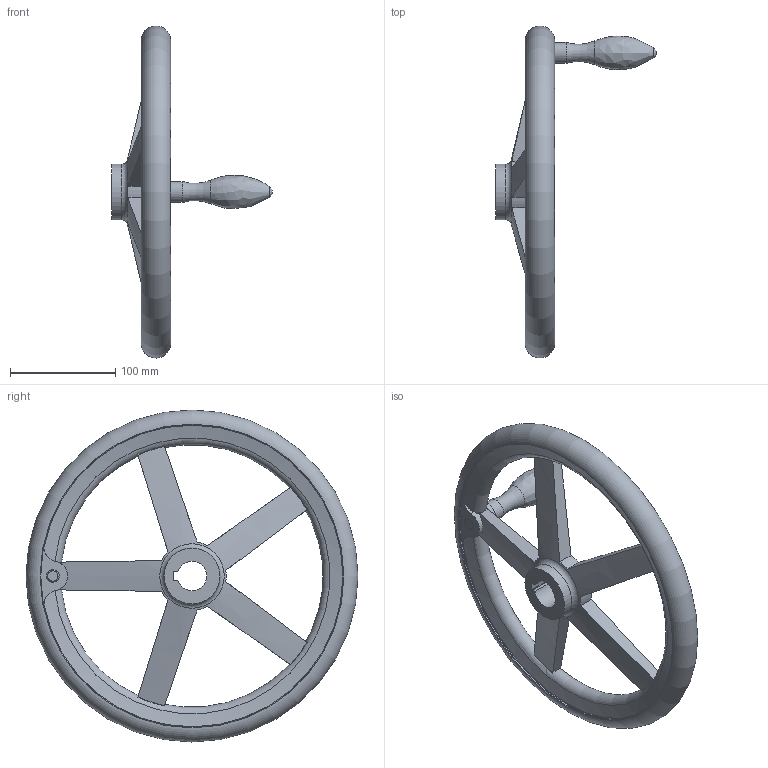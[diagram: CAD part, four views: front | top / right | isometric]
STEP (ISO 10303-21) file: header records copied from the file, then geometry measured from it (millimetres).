
FILE_DESCRIPTION( ( 'STEP AP203' ), '1' );
FILE_NAME( 'C:/Temp/Ganter_Step_05_03_2020/data/1_3/din_950/din_950_k/din_950_k_f/Handwheel DIN 950-GG-315-K28-F.stp', '2020-03-05T10:31:24', ( 'License CC BY-ND 4.0' ), ( 'CADENAS' ), ' ', 'PARTsolutions', ' ' );
FILE_SCHEMA( ( 'CONFIG_CONTROL_DESIGN' ) );
Length unit declared in the file: millimetre
Products named in the file (1): _Handwheel DIN 950-GG-315-K28-F
Bounding box: 152.5 x 315 x 315 mm (x, y, z)
Volume: 851426.9 mm3; surface area: 143494.8 mm2
Topology: 1 solids, 1 shells, 66 faces, 196 edges, 127 vertices
Faces by surface type: torus 21, cylinder 20, plane 18, cone 5, sphere 1, bspline 1
Full cylindrical faces by diameter (mm): 12 x1, 19.8 x1, 53 x2, 287 x2
Entity records: 2704 total; most frequent: CARTESIAN_POINT 1077, ORIENTED_EDGE 338, DIRECTION 300, EDGE_CURVE 169, AXIS2_PLACEMENT_3D 137, VERTEX_POINT 121, EDGE_LOOP 92, FACE_OUTER_BOUND 81
